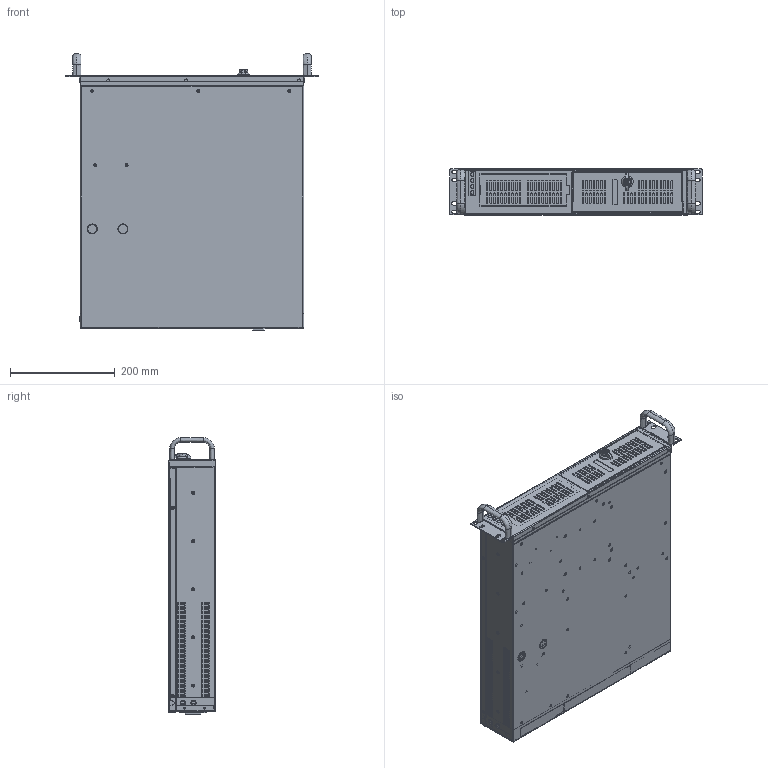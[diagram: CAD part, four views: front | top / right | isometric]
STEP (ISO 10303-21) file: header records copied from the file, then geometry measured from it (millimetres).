
FILE_DESCRIPTION (( 'STEP AP203' ), '1' );
FILE_NAME ('ACP-2010MB_ASSY.STEP', '2015-09-02T00:59:50', ( 'ITD.MIS' ), ( '' ), 'SwSTEP 2.0', 'SolidWorks 2013', '' );
FILE_SCHEMA (( 'CONFIG_CONTROL_DESIGN' ));
Products named in the file (1): ACP-2010MB_ASSY
Bounding box: 482 x 88.4 x 528.7 mm (x, y, z)
Volume: 18102042 mm3; surface area: 1835633.7 mm2
Topology: 2 solids, 2 shells, 3854 faces, 10187 edges, 6462 vertices
Faces by surface type: plane 1702, cylinder 1691, bspline 355, cone 106
Entity records: 156855 total; most frequent: CARTESIAN_POINT 67078, ORIENTED_EDGE 20086, DIRECTION 16233, EDGE_CURVE 10043, VERTEX_POINT 6462, AXIS2_PLACEMENT_3D 5556, VECTOR 5121, LINE 5121
